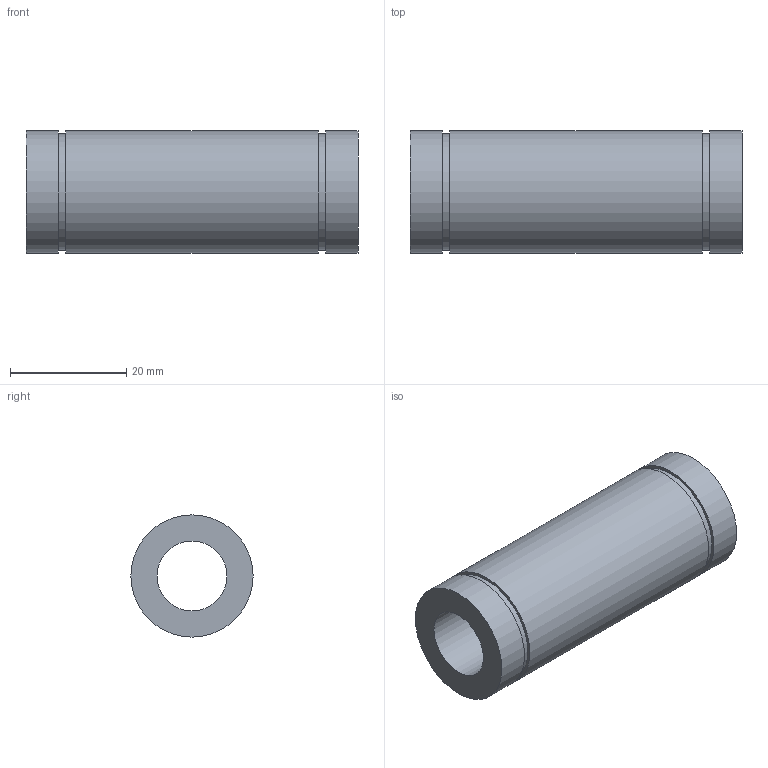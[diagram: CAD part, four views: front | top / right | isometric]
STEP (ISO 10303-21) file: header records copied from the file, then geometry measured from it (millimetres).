
FILE_DESCRIPTION( ( 'STEP AP203' ), '1' );
FILE_NAME( 'p:/temp/worker_94/temp/exporttempdir_4000_487_UeS2M/format_0/LM12LUU.stp', '2020-04-29T05:44:16', ( 'License CC BY-ND 4.0' ), ( 'CADENAS' ), ' ', 'PARTsolutions', ' ' );
FILE_SCHEMA( ( 'CONFIG_CONTROL_DESIGN' ) );
Length unit declared in the file: millimetre
Products named in the file (1): _LM12LUU
Bounding box: 57 x 21 x 21 mm (x, y, z)
Volume: 13212.3 mm3; surface area: 6496.5 mm2
Topology: 1 solids, 1 shells, 12 faces, 18 edges, 12 vertices
Faces by surface type: plane 6, cylinder 6
Full cylindrical faces by diameter (mm): 12 x1, 20 x2, 21 x3
Entity records: 292 total; most frequent: DIRECTION 50, CARTESIAN_POINT 37, AXIS2_PLACEMENT_3D 25, EDGE_LOOP 24, ORIENTED_EDGE 24, FACE_OUTER_BOUND 18, ADVANCED_FACE 12, EDGE_CURVE 12
